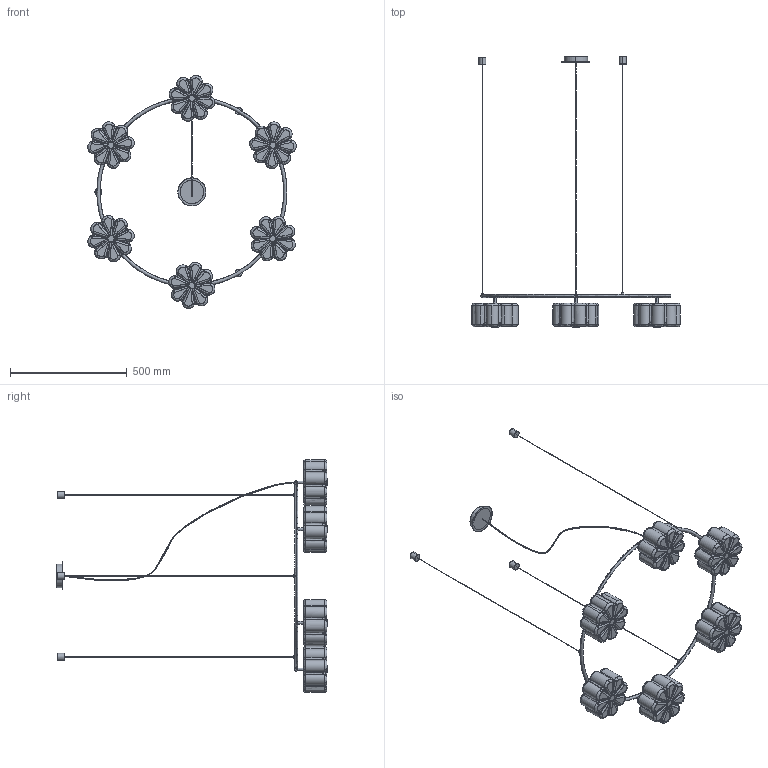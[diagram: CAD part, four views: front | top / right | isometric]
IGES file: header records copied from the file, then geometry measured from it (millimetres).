
Start section: SolidWorks IGES file using analytic representation for surfaces
Global section: file name: C:\Users\Agustin\Desktop\ENERO 2025\2D-3D\2D-3D FLOW_C1339_6\FLOW_C1339_6.IGS; native system: SolidWorks 2018; preprocessor: SolidWorks 2018; author: Agustin; date: 250117.133622; units: millimetre
Bounding box: 892.03 x 1158 x 996.44 mm (x, y, z)
Surface area: 948638.4 mm2 (no closed solid volume)
Topology: 0 solids, 0 shells, 984 faces, 13063 edges, 12992 vertices
Faces by surface type: bspline 596, revolution 388
